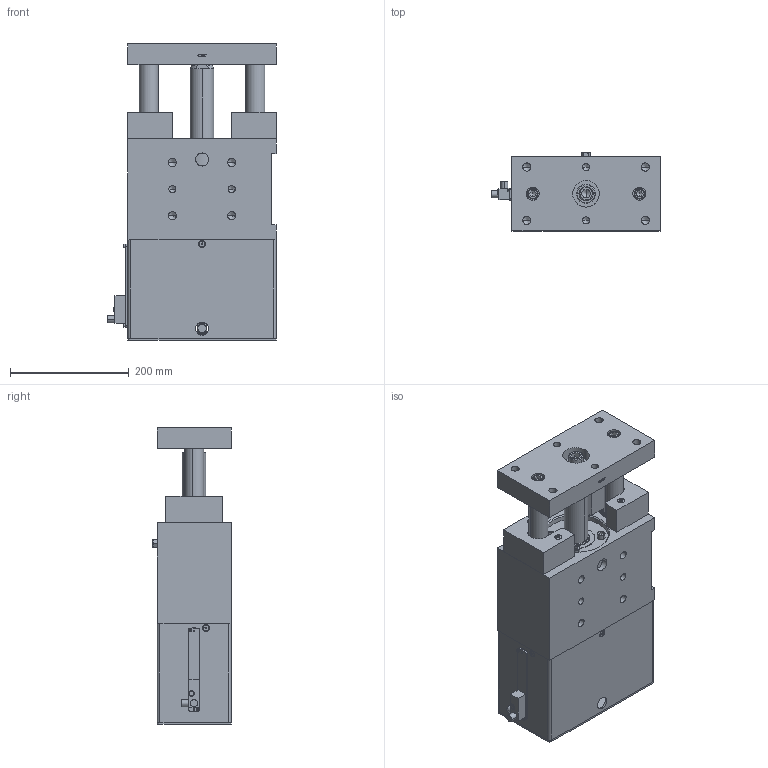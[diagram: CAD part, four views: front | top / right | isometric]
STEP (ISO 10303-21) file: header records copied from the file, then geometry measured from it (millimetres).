
FILE_DESCRIPTION(('CATIA V5 STEP Exchange','CAx-IF Rec.Pracs.--- Model Styling and Organization---1.2---2011-12-15'),'2;1');
FILE_NAME('G:\Konstruktion\Modelle\MZVD_63_80_120_PL_T12_TUENKERS.stp','2019-10-01T14:18:07+00:00',('none'),('none'),'CATIA Version 5-6 Release 2014 SP1 HF29','CATIA V5 STEP AP214','none');
FILE_SCHEMA(('AUTOMOTIVE_DESIGN { 1 0 10303 214 1 1 1 1 }'));
Products named in the file (1): MZVD_63_80_120_PL_T12_TUENKERS
Bounding box: 284 x 131.99 x 500.3 mm (x, y, z)
Volume: 8954531.7 mm3; surface area: 916729.3 mm2
Topology: 4 solids, 45 shells, 2049 faces, 5650 edges, 3773 vertices
Faces by surface type: plane 750, cylinder 455, cone 376, bspline 364, torus 100, sphere 4
Entity records: 74770 total; most frequent: CARTESIAN_POINT 28083, ORIENTED_EDGE 11092, DIRECTION 6730, EDGE_CURVE 5546, VERTEX_POINT 3773, AXIS2_PLACEMENT_3D 3087, EDGE_LOOP 2302, VECTOR 2109
